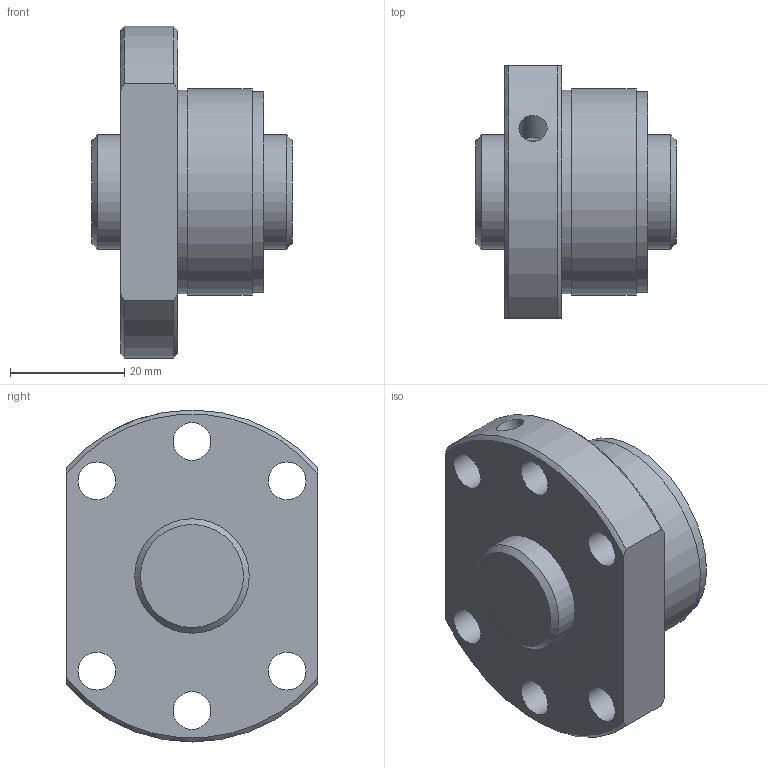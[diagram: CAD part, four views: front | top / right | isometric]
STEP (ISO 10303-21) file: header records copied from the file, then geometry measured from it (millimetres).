
FILE_DESCRIPTION(/* description */ ('STEP AP203'),/* implementation_level */ '2;1');
FILE_NAME(/* name */ 'SDA2005V-3G0+35LC0(0G000)',/* time_stamp */ '2024-05-28T11:29:53+02:00',/* author */ ('License CC BY-ND 4.0'),/* organization */ ('CADENAS'),/* preprocessor_version */ 'ST-DEVELOPER v19.3',/* originating_system */ 'PARTsolutions',/* authorisation */ ' ');
FILE_SCHEMA (('CONFIG_CONTROL_DESIGN'));
Length unit declared in the file: millimetre
Products named in the file (3): SDA2005V-3G0+35LC0(0G000); 000SDA2005V-30Shaft; SDA-V serieSDA2005V-3nut
Assembly tree (2 placements, depth 2):
  SDA2005V-3G0+35LC0(0G000)
    000SDA2005V-30Shaft
    SDA-V serieSDA2005V-3nut
Bounding box: 35 x 44 x 58 mm (x, y, z)
Volume: 38597.9 mm3; surface area: 12728.7 mm2
Topology: 2 solids, 2 shells, 31 faces, 74 edges, 50 vertices
Faces by surface type: cylinder 15, plane 9, cone 7
Full cylindrical faces by diameter (mm): 3.9 x1, 4.917 x1, 6.6 x6, 20 x2, 35 x1, 35.6 x1, 36 x1
Entity records: 915 total; most frequent: CARTESIAN_POINT 174, DIRECTION 144, ORIENTED_EDGE 104, AXIS2_PLACEMENT_3D 68, EDGE_LOOP 66, FACE_BOUND 66, EDGE_CURVE 52, VERTEX_POINT 44
